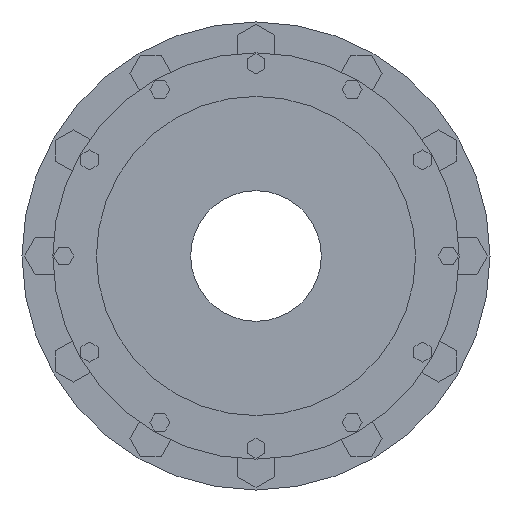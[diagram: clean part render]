
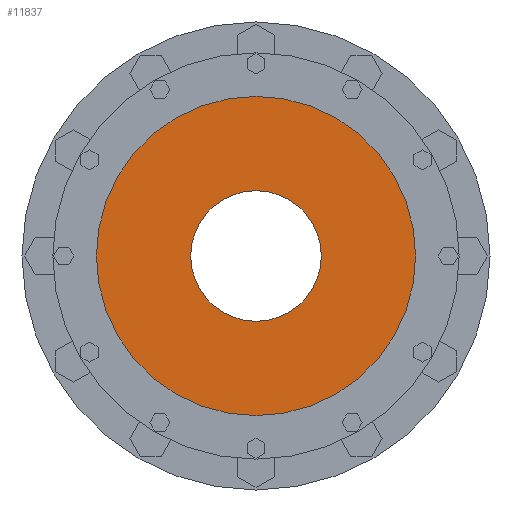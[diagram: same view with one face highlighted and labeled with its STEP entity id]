
A CAD part, left-side view. The second image highlights one B-rep face of the part: STEP entity #11837.
In plain terms, the highlighted planar face has unit normal (-1, 0, 0) as drawn and (1, 0, 0) by its records, which use the part's own axes.
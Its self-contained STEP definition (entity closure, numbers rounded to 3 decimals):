
#11661=CARTESIAN_POINT('',(-10.,0.,0.));
#11662=DIRECTION('',(1.,0.,0.));
#11663=DIRECTION('',(0.,1.,0.));
#11664=AXIS2_PLACEMENT_3D('',#11661,#11662,#11663);
#11671=CARTESIAN_POINT('',(-10.,0.,0.));
#11672=DIRECTION('',(-1.,0.,0.));
#11673=DIRECTION('',(0.,1.,0.));
#11674=AXIS2_PLACEMENT_3D('',#11671,#11672,#11673);
#11676=CARTESIAN_POINT('',(-10.,0.,0.));
#11677=DIRECTION('',(1.,0.,0.));
#11678=DIRECTION('',(0.,1.,0.));
#11679=AXIS2_PLACEMENT_3D('',#11676,#11677,#11678);
#11755=CARTESIAN_POINT('',(-10.,0.,0.));
#11756=DIRECTION('',(1.,0.,0.));
#11757=DIRECTION('',(0.,-1.,0.));
#11758=AXIS2_PLACEMENT_3D('',#11755,#11756,#11757);
#11782=CARTESIAN_POINT('',(-10.,220.,0.));
#11784=VERTEX_POINT('',#11782);
#11786=CARTESIAN_POINT('',(-10.,-220.,0.));
#11788=VERTEX_POINT('',#11786);
#11793=CARTESIAN_POINT('',(-10.,90.,0.));
#11794=CARTESIAN_POINT('',(-10.,-90.,0.));
#11795=VERTEX_POINT('',#11793);
#11796=VERTEX_POINT('',#11794);
#11821=CARTESIAN_POINT('',(-10.,0.,0.));
#11822=DIRECTION('',(1.,0.,0.));
#11823=DIRECTION('',(0.,-1.,0.));
#11824=AXIS2_PLACEMENT_3D('',#11821,#11822,#11823);
#11825=PLANE('',#11824);
#11827=ORIENTED_EDGE('',*,*,#11826,.T.);
#11829=ORIENTED_EDGE('',*,*,#11828,.F.);
#11830=EDGE_LOOP('',(#11827,#11829));
#11831=FACE_OUTER_BOUND('',#11830,.F.);
#11832=ORIENTED_EDGE('',*,*,#11810,.T.);
#11834=ORIENTED_EDGE('',*,*,#11833,.T.);
#11835=EDGE_LOOP('',(#11832,#11834));
#11836=FACE_BOUND('',#11835,.F.);
#11837=ADVANCED_FACE('',(#11831,#11836),#11825,.T.);
#11665=CIRCLE('',#11664,90.);
#11675=CIRCLE('',#11674,220.);
#11680=CIRCLE('',#11679,220.);
#11759=CIRCLE('',#11758,90.);
#11810=EDGE_CURVE('',#11795,#11796,#11665,.T.);
#11826=EDGE_CURVE('',#11784,#11788,#11675,.T.);
#11828=EDGE_CURVE('',#11784,#11788,#11680,.T.);
#11833=EDGE_CURVE('',#11796,#11795,#11759,.T.);
